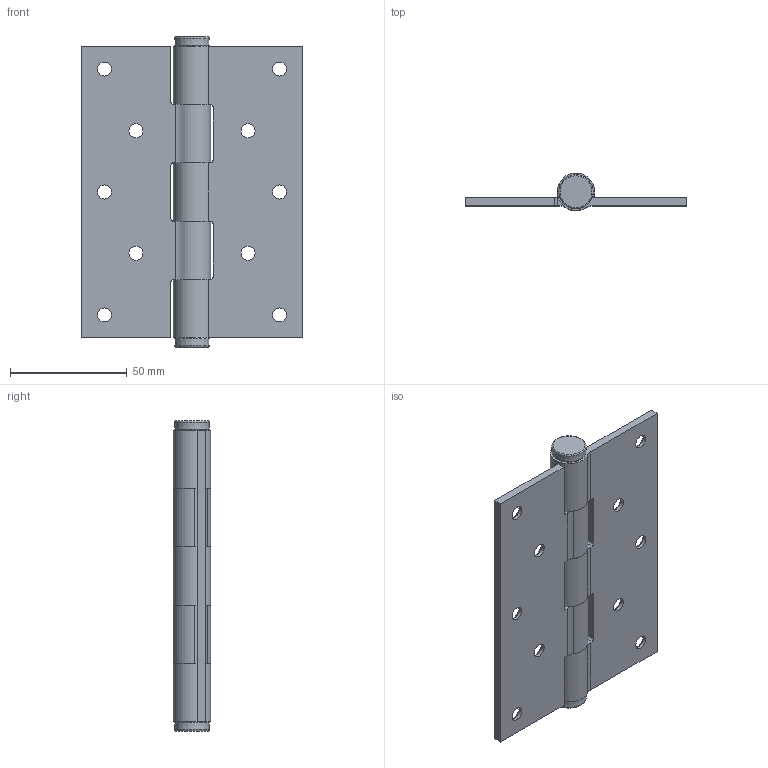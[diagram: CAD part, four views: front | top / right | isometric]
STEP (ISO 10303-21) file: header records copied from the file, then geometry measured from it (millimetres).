
FILE_DESCRIPTION(/* description */ (''),/* implementation_level */ '2;1');
FILE_NAME(/* name */ '\\NAS\db20\HH12595-35\DR_HH12595-35.stp',/* time_stamp */ '2017-08-16T18:02:40+09:00',/* author */ ('user'),/* organization */ (''),/* preprocessor_version */ 'ST-DEVELOPER v15.6',/* originating_system */ 'Autodesk Inventor 2015',/* authorisation */ '');
FILE_SCHEMA (('AUTOMOTIVE_DESIGN { 1 0 10303 214 3 1 1 }'));
Length unit declared in the file: millimetre
Products named in the file (3): DR_HH12595-35-P1; DR_HH12595-35-P2; DR_HH12595-35
Bounding box: 95 x 15.99 x 133 mm (x, y, z)
Volume: 58972.8 mm3; surface area: 37203 mm2
Topology: 3 solids, 3 shells, 87 faces, 233 edges, 154 vertices
Faces by surface type: cylinder 39, plane 32, cone 12, torus 4
Full cylindrical faces by diameter (mm): 6 x10, 9 x1
Entity records: 2637 total; most frequent: DIRECTION 476, CARTESIAN_POINT 432, ORIENTED_EDGE 392, EDGE_CURVE 196, AXIS2_PLACEMENT_3D 188, VERTEX_POINT 144, EDGE_LOOP 136, LINE 100
